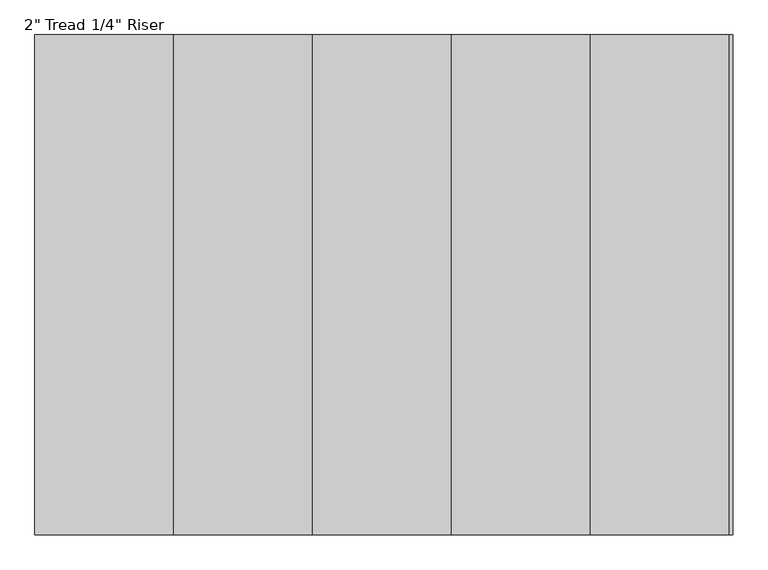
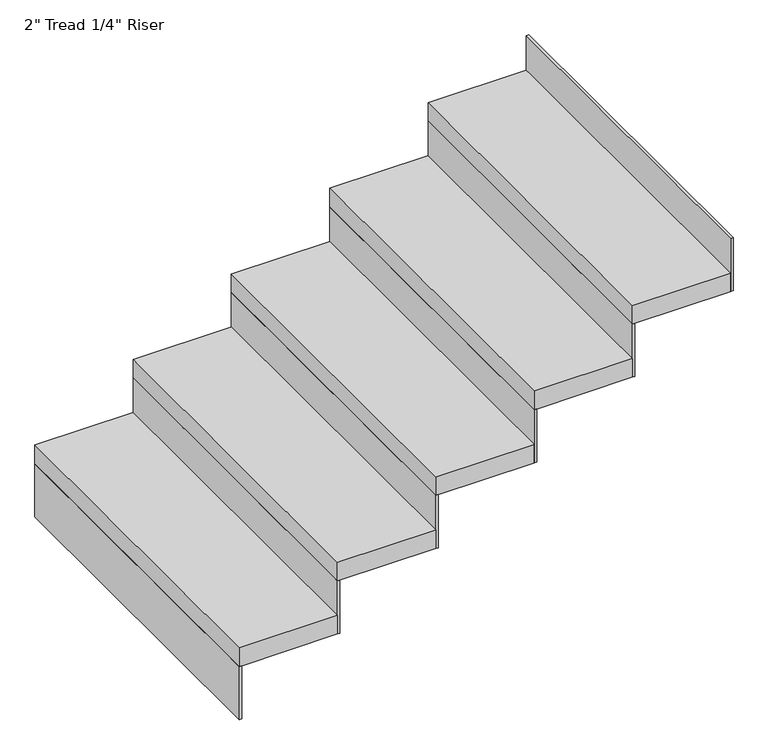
"""IFC4 building model written with IfcOpenShell, lengths in millimetres: stair flight geometry."""

from ifc_helpers import new_model, si_unit, frame, origin, place, context, project, spatial, polyline, outline, extrude, source, transform, mapped, element, save


def stair_flight_972f2d04(model_context):
    return source(origin(), model_context, "Body", "SweptSolid", [
        extrude(outline(polyline([(29189.1612561, -12577.0617549), (29182.8112561, -12577.0617549), (29182.8112561, -11662.6617549), (29189.1612561, -11662.6617549), (29189.1612561, -12577.0617549)])), frame((0.0, 0.0, 2126.3428571), z_axis=(0.0, 0.0, 1.0), x_axis=(1.0, 0.0, 0.0)), (0.0, 0.0, 1.0), 145.1428571),
        extrude(outline(polyline([(29436.8112561, -11662.6617549), (29436.8112561, -12577.0617549), (29182.8112561, -12577.0617549), (29182.8112561, -11662.6617549), (29436.8112561, -11662.6617549)])), frame((0.0, 0.0, 2271.4857143), z_axis=(0.0, 0.0, 1.0), x_axis=(1.0, 0.0, 0.0)), (0.0, 0.0, 1.0), 50.8),
        extrude(outline(polyline([(29443.1612561, -12577.0617549), (29436.8112561, -12577.0617549), (29436.8112561, -11662.6617549), (29443.1612561, -11662.6617549), (29443.1612561, -12577.0617549)])), frame((0.0, 0.0, 2271.4857143), z_axis=(0.0, 0.0, 1.0), x_axis=(1.0, 0.0, 0.0)), (0.0, 0.0, 1.0), 145.1428571),
        extrude(outline(polyline([(29690.8112561, -11662.6617549), (29690.8112561, -12577.0617549), (29436.8112561, -12577.0617549), (29436.8112561, -11662.6617549), (29690.8112561, -11662.6617549)])), frame((0.0, 0.0, 2416.6285714), z_axis=(0.0, 0.0, 1.0), x_axis=(1.0, 0.0, 0.0)), (0.0, 0.0, 1.0), 50.8),
        extrude(outline(polyline([(29697.1612561, -12577.0617549), (29690.8112561, -12577.0617549), (29690.8112561, -11662.6617549), (29697.1612561, -11662.6617549), (29697.1612561, -12577.0617549)])), frame((0.0, 0.0, 2416.6285714), z_axis=(0.0, 0.0, 1.0), x_axis=(1.0, 0.0, 0.0)), (0.0, 0.0, 1.0), 145.1428571),
        extrude(outline(polyline([(29944.8112561, -11662.6617549), (29944.8112561, -12577.0617549), (29690.8112561, -12577.0617549), (29690.8112561, -11662.6617549), (29944.8112561, -11662.6617549)])), frame((0.0, 0.0, 2561.7714286), z_axis=(0.0, 0.0, 1.0), x_axis=(1.0, 0.0, 0.0)), (0.0, 0.0, 1.0), 50.8),
        extrude(outline(polyline([(29951.1612561, -12577.0617549), (29944.8112561, -12577.0617549), (29944.8112561, -11662.6617549), (29951.1612561, -11662.6617549), (29951.1612561, -12577.0617549)])), frame((0.0, 0.0, 2561.7714286), z_axis=(0.0, 0.0, 1.0), x_axis=(1.0, 0.0, 0.0)), (0.0, 0.0, 1.0), 145.1428571),
        extrude(outline(polyline([(30198.8112561, -11662.6617549), (30198.8112561, -12577.0617549), (29944.8112561, -12577.0617549), (29944.8112561, -11662.6617549), (30198.8112561, -11662.6617549)])), frame((0.0, 0.0, 2706.9142857), z_axis=(0.0, 0.0, 1.0), x_axis=(1.0, 0.0, 0.0)), (0.0, 0.0, 1.0), 50.8),
        extrude(outline(polyline([(30205.1612561, -12577.0617549), (30198.8112561, -12577.0617549), (30198.8112561, -11662.6617549), (30205.1612561, -11662.6617549), (30205.1612561, -12577.0617549)])), frame((0.0, 0.0, 2706.9142857), z_axis=(0.0, 0.0, 1.0), x_axis=(1.0, 0.0, 0.0)), (0.0, 0.0, 1.0), 145.1428571),
        extrude(outline(polyline([(30459.1612561, -12577.0617549), (30452.8112561, -12577.0617549), (30452.8112561, -11662.6617549), (30459.1612561, -11662.6617549), (30459.1612561, -12577.0617549)])), frame((0.0, 0.0, 2852.0571429), z_axis=(0.0, 0.0, 1.0), x_axis=(1.0, 0.0, 0.0)), (0.0, 0.0, 1.0), 145.1428571),
        extrude(outline(polyline([(30452.8112561, -11662.6617549), (30452.8112561, -12577.0617549), (30198.8112561, -12577.0617549), (30198.8112561, -11662.6617549), (30452.8112561, -11662.6617549)])), frame((0.0, 0.0, 2852.0571429), z_axis=(0.0, 0.0, 1.0), x_axis=(1.0, 0.0, 0.0)), (0.0, 0.0, 1.0), 50.8),
    ])


if __name__ == "__main__":
    model = new_model("IFC4")
    model_context = context("Model", 3, world=origin())
    ifc_project = project(units=[si_unit("LENGTHUNIT", "METRE", prefix="MILLI")], contexts=[model_context])
    site = spatial("IfcSite", under=ifc_project)
    building = spatial("IfcBuilding", under=site)
    placement = place(None, origin())
    stair_flight_shape = stair_flight_972f2d04(model_context)
    element("IfcStairFlight", 1, ObjectType="2\" Tread 1/4\" Riser", at=placement, inside=building, context=model_context, shape_type="MappedRepresentation", body=[
        mapped(stair_flight_shape, transform((0.0, 0.0, 0.0), x_axis=(1.0, 0.0, 0.0), y_axis=(0.0, 1.0, 0.0), z_axis=(0.0, 0.0, 1.0))),
    ])
    save(model, "model.ifc")
